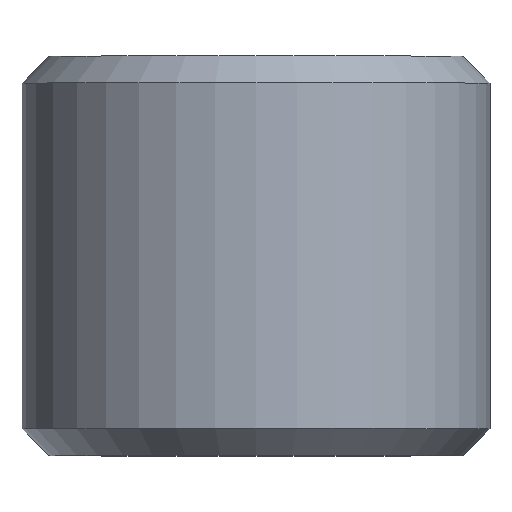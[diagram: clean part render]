
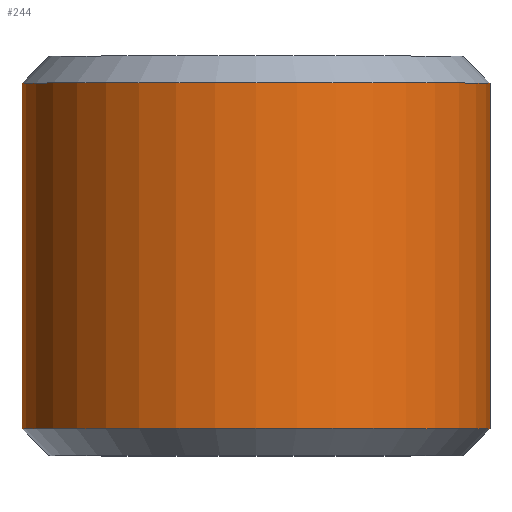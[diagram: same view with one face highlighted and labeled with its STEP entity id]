
A CAD part, top view. The second image highlights one B-rep face of the part: STEP entity #244.
In plain terms, the highlighted cylindrical face has radius 6.516 mm (diameter 13.032 mm), a full revolution.
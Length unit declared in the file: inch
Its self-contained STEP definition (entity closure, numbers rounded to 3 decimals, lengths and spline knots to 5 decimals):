
#16=CYLINDRICAL_SURFACE('',#274,0.25654);
#18=CIRCLE('',#272,0.25654);
#19=CIRCLE('',#273,0.25654);
#20=CIRCLE('',#275,0.25654);
#21=CIRCLE('',#276,0.25654);
#34=FACE_OUTER_BOUND('',#47,.T.);
#47=EDGE_LOOP('',(#193,#194,#195,#196,#197,#198));
#67=LINE('',#425,#83);
#83=VECTOR('',#321,0.267);
#117=VERTEX_POINT('',#418);
#118=VERTEX_POINT('',#420);
#119=VERTEX_POINT('',#424);
#120=VERTEX_POINT('',#426);
#149=EDGE_CURVE('',#117,#118,#18,.F.);
#150=EDGE_CURVE('',#118,#117,#19,.F.);
#151=EDGE_CURVE('',#118,#119,#67,.T.);
#152=EDGE_CURVE('',#120,#119,#20,.F.);
#153=EDGE_CURVE('',#119,#120,#21,.F.);
#193=ORIENTED_EDGE('',*,*,#150,.F.);
#194=ORIENTED_EDGE('',*,*,#151,.T.);
#195=ORIENTED_EDGE('',*,*,#152,.F.);
#196=ORIENTED_EDGE('',*,*,#153,.F.);
#197=ORIENTED_EDGE('',*,*,#151,.F.);
#198=ORIENTED_EDGE('',*,*,#149,.F.);
#244=ADVANCED_FACE('',(#34),#16,.T.);
#272=AXIS2_PLACEMENT_3D('',#421,#315,#316);
#273=AXIS2_PLACEMENT_3D('',#422,#317,#318);
#274=AXIS2_PLACEMENT_3D('',#423,#319,#320);
#275=AXIS2_PLACEMENT_3D('',#427,#322,#323);
#276=AXIS2_PLACEMENT_3D('',#428,#324,#325);
#315=DIRECTION('center_axis',(0.,1.,0.));
#316=DIRECTION('ref_axis',(0.,0.,-1.));
#317=DIRECTION('center_axis',(0.,1.,0.));
#318=DIRECTION('ref_axis',(0.,0.,-1.));
#319=DIRECTION('center_axis',(0.,-1.,0.));
#320=DIRECTION('ref_axis',(0.,0.,-1.));
#321=DIRECTION('',(0.,1.,0.));
#322=DIRECTION('center_axis',(0.,-1.,0.));
#323=DIRECTION('ref_axis',(0.,0.,-1.));
#324=DIRECTION('center_axis',(0.,-1.,0.));
#325=DIRECTION('ref_axis',(0.,0.,-1.));
#418=CARTESIAN_POINT('',(0.,0.02954,-0.25654));
#420=CARTESIAN_POINT('',(0.,0.02954,0.25654));
#421=CARTESIAN_POINT('Origin',(0.,0.02954,0.));
#422=CARTESIAN_POINT('Origin',(0.,0.02954,0.));
#423=CARTESIAN_POINT('Origin',(0.,0.219,0.));
#424=CARTESIAN_POINT('',(0.,0.40846,0.25654));
#425=CARTESIAN_POINT('',(0.,0.219,0.25654));
#426=CARTESIAN_POINT('',(0.,0.40846,-0.25654));
#427=CARTESIAN_POINT('Origin',(0.,0.40846,0.));
#428=CARTESIAN_POINT('Origin',(0.,0.40846,0.));
